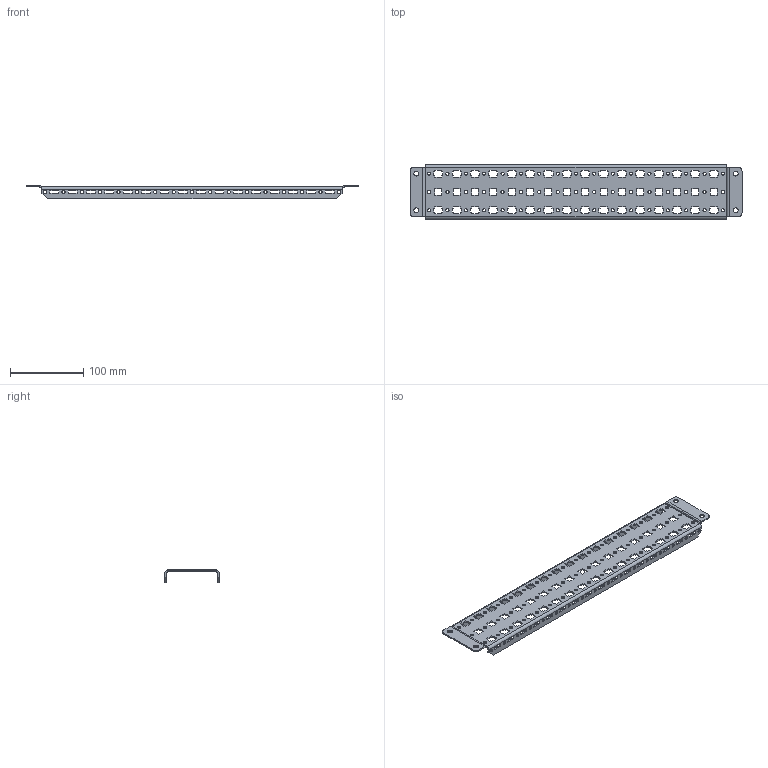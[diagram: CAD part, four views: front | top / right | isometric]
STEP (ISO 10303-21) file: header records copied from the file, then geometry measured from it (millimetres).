
FILE_DESCRIPTION (( 'STEP AP203' ), '1' );
FILE_NAME ('MRD 50.09 Ðåéêà ìîíòàæíàÿ âåðòèêàëüíàÿ.STEP', '2025-05-15T12:31:06', ( '' ), ( '' ), 'SwSTEP 2.0', 'SolidWorks 2019', '' );
FILE_SCHEMA (( 'CONFIG_CONTROL_DESIGN' ));
Length unit declared in the file: millimetre
Products named in the file (1): MRD 50.09 Ðåéêà ìîíòàæíàÿ âåðòèêàëüíàÿ
Bounding box: 452 x 74 x 19.03 mm (x, y, z)
Volume: 73613.6 mm3; surface area: 84318.9 mm2
Topology: 1 solids, 1 shells, 824 faces, 2418 edges, 1596 vertices
Faces by surface type: plane 622, cylinder 202
Entity records: 27875 total; most frequent: CARTESIAN_POINT 4839, ORIENTED_EDGE 4836, DIRECTION 4472, EDGE_CURVE 2418, VECTOR 2014, LINE 2014, VERTEX_POINT 1596, AXIS2_PLACEMENT_3D 1229
